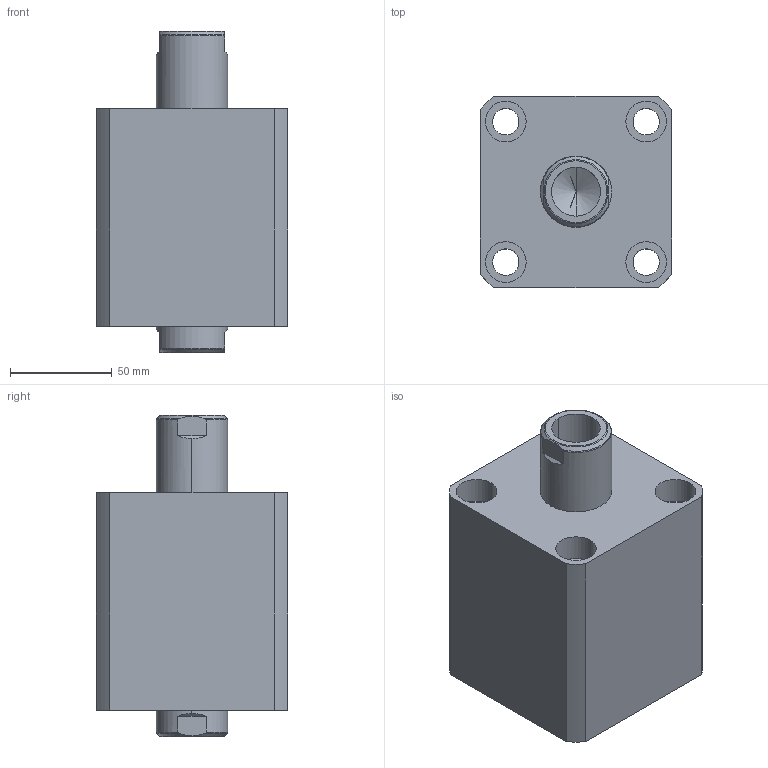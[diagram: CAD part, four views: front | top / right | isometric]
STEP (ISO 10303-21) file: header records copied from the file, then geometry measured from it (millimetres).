
FILE_DESCRIPTION (( 'STEP AP214' ), '1' );
FILE_NAME ('chtb-sw63x25n_asm.STEP', '2018-05-12T01:52:09', ( 'Windows' ), ( 'Microsoft' ), 'SwSTEP 2.0', 'SolidWorks 2015', '' );
FILE_SCHEMA (( 'AUTOMOTIVE_DESIGN' ));
Length unit declared in the file: millimetre
Products named in the file (4): CHTB-SW63X25NHSG; CHTB-SW63X25NBT; CHTB-63QG; chtb-sw63x25n_asm
Assembly tree (3 placements, depth 2):
  chtb-sw63x25n_asm
    CHTB-63QG
    CHTB-SW63X25NBT
    CHTB-SW63X25NHSG
Bounding box: 94 x 94 x 158 mm (x, y, z)
Volume: 830194 mm3; surface area: 142611.4 mm2
Topology: 3 solids, 3 shells, 184 faces, 515 edges, 349 vertices
Faces by surface type: cylinder 106, plane 38, cone 16, bspline 12, torus 12
Entity records: 18385 total; most frequent: CARTESIAN_POINT 13775, ORIENTED_EDGE 1014, DIRECTION 814, EDGE_CURVE 507, VERTEX_POINT 349, AXIS2_PLACEMENT_3D 331, EDGE_LOOP 220, FACE_OUTER_BOUND 184
